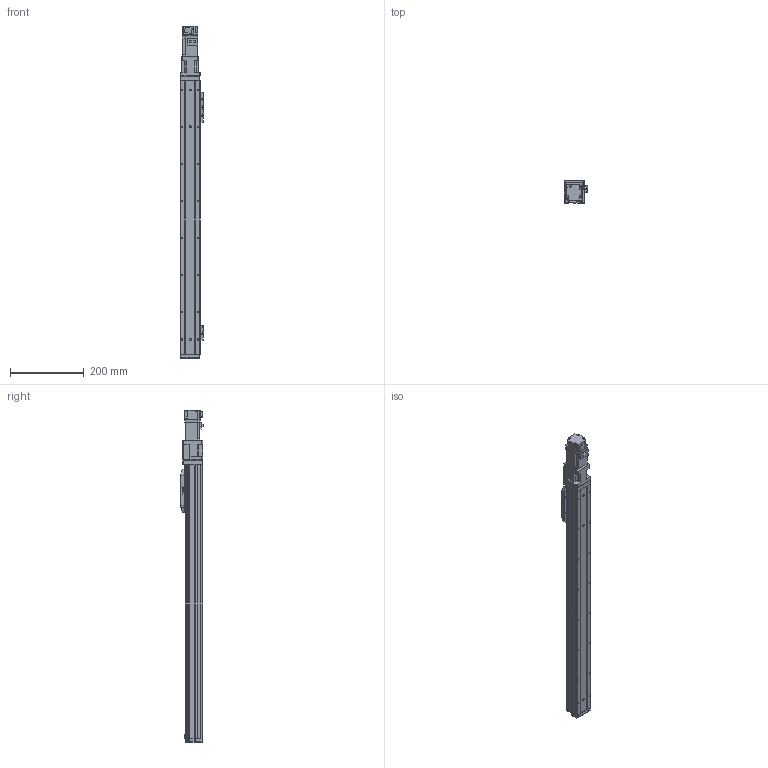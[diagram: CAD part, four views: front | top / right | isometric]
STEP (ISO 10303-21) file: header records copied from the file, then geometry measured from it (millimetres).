
FILE_DESCRIPTION (( 'STEP AP214' ), '1' );
FILE_NAME ('N_GRH5-600-BC-M10.step', '2025-03-14T09:34:13', ( '' ), ( '' ), 'SwSTEP 2.0', 'SolidWorks 2016', '' );
FILE_SCHEMA (( 'AUTOMOTIVE_DESIGN' ));
Length unit declared in the file: millimetre
Products named in the file (5): N_GRH5-GY-004^N_GRH5-600-BC-M10; N_GRH5-BC-008^N_GRH5-600-BC-M10; HF-KP13_100W_Motor^N_GRH5-600-BC-M10; N_GRH5-600-BC-M10; N_GRH5-GY-011^N_GRH5-600-BC-M10
Assembly tree (4 placements, depth 2):
  N_GRH5-600-BC-M10
    N_GRH5-GY-011^N_GRH5-600-BC-M10
    N_GRH5-GY-004^N_GRH5-600-BC-M10
    N_GRH5-BC-008^N_GRH5-600-BC-M10
    HF-KP13_100W_Motor^N_GRH5-600-BC-M10
Bounding box: 64.05 x 60.7 x 897.9 mm (x, y, z)
Volume: 1437479.2 mm3; surface area: 387024.8 mm2
Topology: 4 solids, 5 shells, 944 faces, 2438 edges, 1551 vertices
Faces by surface type: plane 556, cylinder 328, cone 58, sphere 2
Entity records: 35246 total; most frequent: DIRECTION 4985, CARTESIAN_POINT 4976, ORIENTED_EDGE 4804, EDGE_CURVE 2402, LINE 1685, VECTOR 1685, AXIS2_PLACEMENT_3D 1650, VERTEX_POINT 1549
